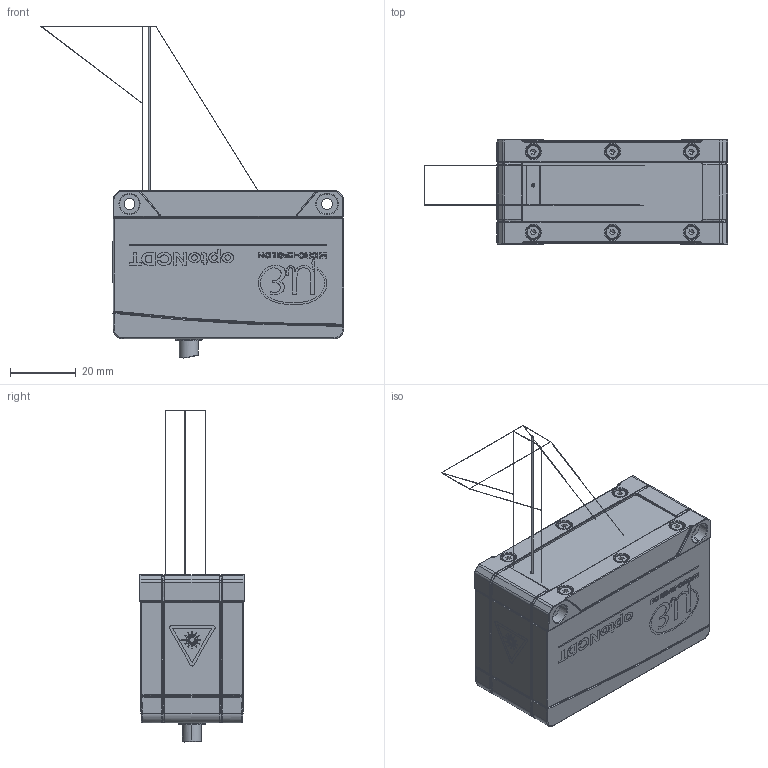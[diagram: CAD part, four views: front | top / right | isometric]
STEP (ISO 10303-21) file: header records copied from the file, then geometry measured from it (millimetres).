
FILE_DESCRIPTION (( 'STEP AP214' ), '1' );
FILE_NAME ('free_space_optoNCDT_1900-25.STEP', '2020-05-06T14:31:25', ( '' ), ( '' ), 'SwSTEP 2.0', 'SolidWorks 2018', '' );
FILE_SCHEMA (( 'AUTOMOTIVE_DESIGN' ));
Length unit declared in the file: millimetre
Products named in the file (2): free_space_optoNCDT_1900-25
Bounding box: 92.25 x 32 x 100.84 mm (x, y, z)
Volume: 95781.4 mm3; surface area: 15630.3 mm2
Topology: 4 solids, 4 shells, 2228 faces, 5820 edges, 3718 vertices
Faces by surface type: plane 964, bspline 813, cylinder 269, torus 87, cone 87, sphere 8
Entity records: 107299 total; most frequent: CARTESIAN_POINT 33893, ORIENTED_EDGE 11584, DIRECTION 7594, EDGE_CURVE 5792, VERTEX_POINT 3718, VECTOR 3304, LINE 3304, EDGE_LOOP 2380
